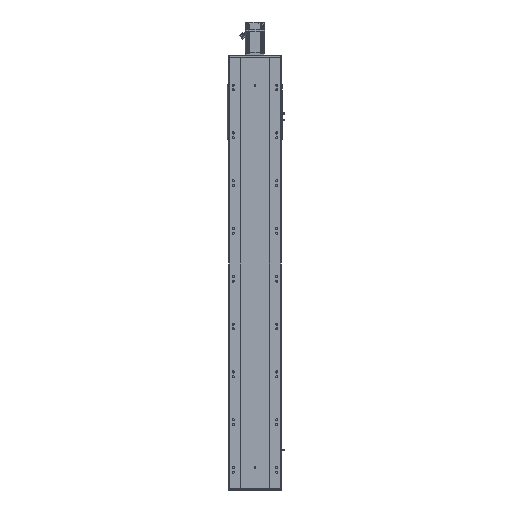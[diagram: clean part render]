
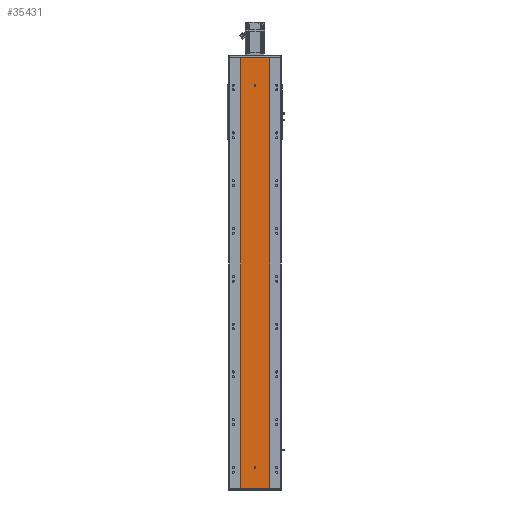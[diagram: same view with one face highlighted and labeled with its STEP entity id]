
A CAD part, front view. The second image highlights one B-rep face of the part: STEP entity #35431.
In plain terms, the highlighted planar face has unit normal (0, -1, 0).
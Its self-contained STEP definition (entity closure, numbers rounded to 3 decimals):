
#2290 = CARTESIAN_POINT ( 'NONE',  ( -60., 0., 0. ) ) ;
#2356 = VERTEX_POINT ( 'NONE', #18063 ) ;
#3020 = LINE ( 'NONE', #19767, #14926 ) ;
#3148 = EDGE_CURVE ( 'NONE', #15830, #61133, #68795, .T. ) ;
#3575 = VERTEX_POINT ( 'NONE', #67571 ) ;
#4246 = EDGE_CURVE ( 'NONE', #3575, #69550, #31165, .T. ) ;
#5221 = FACE_BOUND ( 'NONE', #19481, .T. ) ;
#6801 = CARTESIAN_POINT ( 'NONE',  ( 0., 0., 1682. ) ) ;
#7475 = CARTESIAN_POINT ( 'NONE',  ( -60., 0., 1800. ) ) ;
#8374 = VERTEX_POINT ( 'NONE', #23781 ) ;
#8970 = CIRCLE ( 'NONE', #66071, 4. ) ;
#10090 = VECTOR ( 'NONE', #41018, 1000. ) ;
#10895 = DIRECTION ( 'NONE',  ( 0., 0., -1. ) ) ;
#11498 = VERTEX_POINT ( 'NONE', #52246 ) ;
#11835 = PLANE ( 'NONE',  #33497 ) ;
#11911 = VECTOR ( 'NONE', #72121, 1000. ) ;
#13103 = ORIENTED_EDGE ( 'NONE', *, *, #27612, .F. ) ;
#13839 = DIRECTION ( 'NONE',  ( 0., 1., 0. ) ) ;
#14473 = ORIENTED_EDGE ( 'NONE', *, *, #67104, .F. ) ;
#14926 = VECTOR ( 'NONE', #66442, 1000. ) ;
#15303 = ORIENTED_EDGE ( 'NONE', *, *, #3148, .T. ) ;
#15414 = DIRECTION ( 'NONE',  ( 0., -1., 0. ) ) ;
#15830 = VERTEX_POINT ( 'NONE', #23890 ) ;
#16323 = EDGE_LOOP ( 'NONE', ( #15303, #35669, #66729, #50893 ) ) ;
#17242 = VERTEX_POINT ( 'NONE', #67465 ) ;
#17937 = VERTEX_POINT ( 'NONE', #22514 ) ;
#18063 = CARTESIAN_POINT ( 'NONE',  ( 0., 0., 80.5 ) ) ;
#18588 = VECTOR ( 'NONE', #26815, 1000. ) ;
#19466 = DIRECTION ( 'NONE',  ( 0., -1., 0. ) ) ;
#19467 = CIRCLE ( 'NONE', #23670, 4. ) ;
#19481 = EDGE_LOOP ( 'NONE', ( #19564, #24627 ) ) ;
#19564 = ORIENTED_EDGE ( 'NONE', *, *, #63856, .F. ) ;
#19767 = CARTESIAN_POINT ( 'NONE',  ( 4., 0., 84.5 ) ) ;
#21357 = ORIENTED_EDGE ( 'NONE', *, *, #67119, .F. ) ;
#21783 = CARTESIAN_POINT ( 'NONE',  ( 0., 0., 84.5 ) ) ;
#22514 = CARTESIAN_POINT ( 'NONE',  ( 0., 0., 1690. ) ) ;
#23670 = AXIS2_PLACEMENT_3D ( 'NONE', #25843, #19466, #66642 ) ;
#23729 = ORIENTED_EDGE ( 'NONE', *, *, #63423, .F. ) ;
#23781 = CARTESIAN_POINT ( 'NONE',  ( 4., 0., 87.5 ) ) ;
#23890 = CARTESIAN_POINT ( 'NONE',  ( -60., 0., 0. ) ) ;
#23928 = LINE ( 'NONE', #27581, #68640 ) ;
#24627 = ORIENTED_EDGE ( 'NONE', *, *, #30847, .F. ) ;
#25645 = LINE ( 'NONE', #29286, #10090 ) ;
#25843 = CARTESIAN_POINT ( 'NONE',  ( 0., 0., 1686. ) ) ;
#26815 = DIRECTION ( 'NONE',  ( 1., 0., 0. ) ) ;
#27382 = DIRECTION ( 'NONE',  ( 0., -1., 0. ) ) ;
#27581 = CARTESIAN_POINT ( 'NONE',  ( -4., 0., 84.5 ) ) ;
#27612 = EDGE_CURVE ( 'NONE', #67913, #17242, #23928, .T. ) ;
#28264 = AXIS2_PLACEMENT_3D ( 'NONE', #21783, #27382, #62592 ) ;
#28460 = VECTOR ( 'NONE', #43723, 1000. ) ;
#28727 = EDGE_CURVE ( 'NONE', #69550, #61133, #73984, .T. ) ;
#29286 = CARTESIAN_POINT ( 'NONE',  ( -60., 0., 1800. ) ) ;
#29507 = CARTESIAN_POINT ( 'NONE',  ( 0., 0., 87.5 ) ) ;
#29841 = FACE_OUTER_BOUND ( 'NONE', #16323, .T. ) ;
#29952 = EDGE_CURVE ( 'NONE', #8374, #67913, #8970, .T. ) ;
#30847 = EDGE_CURVE ( 'NONE', #17937, #52219, #62758, .T. ) ;
#31165 = LINE ( 'NONE', #38346, #28460 ) ;
#33497 = AXIS2_PLACEMENT_3D ( 'NONE', #7475, #13839, #60538 ) ;
#35431 = ADVANCED_FACE ( 'NONE', ( #5221, #42640, #29841 ), #11835, .F. ) ;
#35669 = ORIENTED_EDGE ( 'NONE', *, *, #28727, .F. ) ;
#36161 = ORIENTED_EDGE ( 'NONE', *, *, #29952, .F. ) ;
#37342 = CARTESIAN_POINT ( 'NONE',  ( 60., 0., 0. ) ) ;
#38346 = CARTESIAN_POINT ( 'NONE',  ( -60., 0., 1800. ) ) ;
#39332 = CARTESIAN_POINT ( 'NONE',  ( 0., 0., 84.5 ) ) ;
#41018 = DIRECTION ( 'NONE',  ( 0., 0., -1. ) ) ;
#41760 = CIRCLE ( 'NONE', #46349, 4. ) ;
#42640 = FACE_BOUND ( 'NONE', #63814, .T. ) ;
#43723 = DIRECTION ( 'NONE',  ( 1., 0., 0. ) ) ;
#43903 = CARTESIAN_POINT ( 'NONE',  ( 60., 0., 1800. ) ) ;
#45608 = CARTESIAN_POINT ( 'NONE',  ( 0., 0., 1686. ) ) ;
#46349 = AXIS2_PLACEMENT_3D ( 'NONE', #39332, #15414, #74315 ) ;
#48505 = AXIS2_PLACEMENT_3D ( 'NONE', #45608, #51475, #69101 ) ;
#50893 = ORIENTED_EDGE ( 'NONE', *, *, #73447, .T. ) ;
#51475 = DIRECTION ( 'NONE',  ( 0., -1., 0. ) ) ;
#52219 = VERTEX_POINT ( 'NONE', #6801 ) ;
#52246 = CARTESIAN_POINT ( 'NONE',  ( 4., 0., 84.5 ) ) ;
#57841 = DIRECTION ( 'NONE',  ( 0., -1., 0. ) ) ;
#59981 = CARTESIAN_POINT ( 'NONE',  ( -4., 0., 87.5 ) ) ;
#60538 = DIRECTION ( 'NONE',  ( 0., 0., 1. ) ) ;
#60968 = CIRCLE ( 'NONE', #28264, 4. ) ;
#61133 = VERTEX_POINT ( 'NONE', #37342 ) ;
#62592 = DIRECTION ( 'NONE',  ( 0., 0., -1. ) ) ;
#62758 = CIRCLE ( 'NONE', #48505, 4. ) ;
#63026 = DIRECTION ( 'NONE',  ( 0., 0., -1. ) ) ;
#63423 = EDGE_CURVE ( 'NONE', #11498, #8374, #3020, .T. ) ;
#63814 = EDGE_LOOP ( 'NONE', ( #23729, #21357, #14473, #13103, #36161 ) ) ;
#63856 = EDGE_CURVE ( 'NONE', #52219, #17937, #19467, .T. ) ;
#66071 = AXIS2_PLACEMENT_3D ( 'NONE', #29507, #57841, #10895 ) ;
#66442 = DIRECTION ( 'NONE',  ( 0., 0., 1. ) ) ;
#66642 = DIRECTION ( 'NONE',  ( 0., 0., -1. ) ) ;
#66729 = ORIENTED_EDGE ( 'NONE', *, *, #4246, .F. ) ;
#67104 = EDGE_CURVE ( 'NONE', #17242, #2356, #41760, .T. ) ;
#67119 = EDGE_CURVE ( 'NONE', #2356, #11498, #60968, .T. ) ;
#67465 = CARTESIAN_POINT ( 'NONE',  ( -4., 0., 84.5 ) ) ;
#67571 = CARTESIAN_POINT ( 'NONE',  ( -60., 0., 1800. ) ) ;
#67913 = VERTEX_POINT ( 'NONE', #59981 ) ;
#68640 = VECTOR ( 'NONE', #63026, 1000. ) ;
#68795 = LINE ( 'NONE', #2290, #18588 ) ;
#69101 = DIRECTION ( 'NONE',  ( 0., 0., -1. ) ) ;
#69550 = VERTEX_POINT ( 'NONE', #43903 ) ;
#71135 = CARTESIAN_POINT ( 'NONE',  ( 60., 0., 1800. ) ) ;
#72121 = DIRECTION ( 'NONE',  ( 0., 0., -1. ) ) ;
#73447 = EDGE_CURVE ( 'NONE', #3575, #15830, #25645, .T. ) ;
#73984 = LINE ( 'NONE', #71135, #11911 ) ;
#74315 = DIRECTION ( 'NONE',  ( 0., 0., -1. ) ) ;
